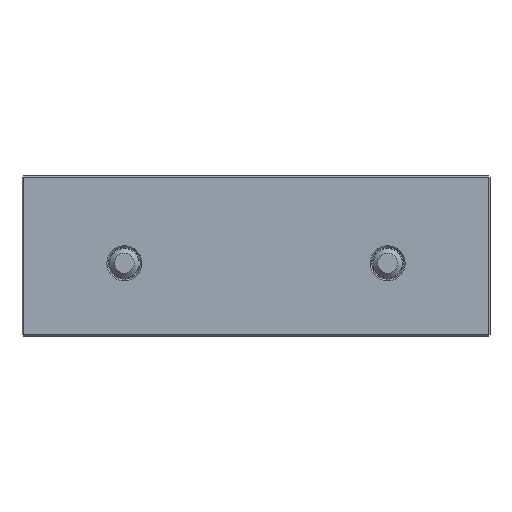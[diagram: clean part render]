
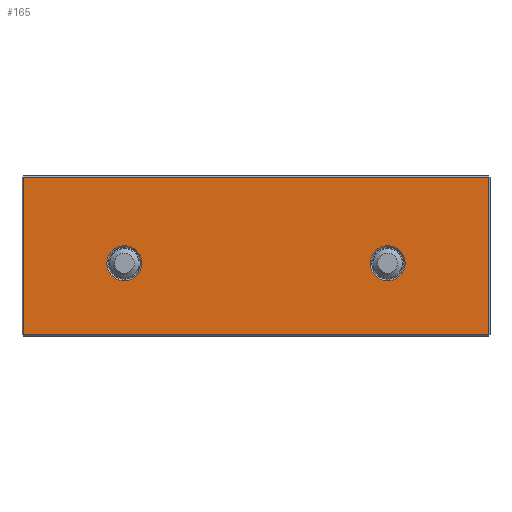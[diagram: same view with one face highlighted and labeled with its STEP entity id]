
A CAD part, front view. The second image highlights one B-rep face of the part: STEP entity #165.
In plain terms, the highlighted planar face has unit normal (0, -1, 0).
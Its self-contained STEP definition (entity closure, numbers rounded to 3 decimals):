
#165=ADVANCED_FACE('',(#815,#817,#819),#821,.T.);
#815=FACE_BOUND('',#816,.T.);
#816=EDGE_LOOP('',(#1295,#1296,#1297,#1298));
#817=FACE_BOUND('',#818,.T.);
#818=EDGE_LOOP('',(#1299));
#819=FACE_BOUND('',#820,.T.);
#820=EDGE_LOOP('',(#1300));
#821=PLANE('',#822);
#822=AXIS2_PLACEMENT_3D('',#823,#824,#825);
#823=CARTESIAN_POINT('',(-80.,-7.,30.));
#824=DIRECTION('',(0.,-1.,0.));
#825=DIRECTION('',(0.,0.,-1.));
#1295=ORIENTED_EDGE('',*,*,#1548,.F.);
#1296=ORIENTED_EDGE('',*,*,#1549,.F.);
#1297=ORIENTED_EDGE('',*,*,#1550,.T.);
#1298=ORIENTED_EDGE('',*,*,#1551,.T.);
#1299=ORIENTED_EDGE('',*,*,#1552,.T.);
#1300=ORIENTED_EDGE('',*,*,#1535,.T.);
#1535=EDGE_CURVE('',#1678,#1678,#1679,.T.);
#1548=EDGE_CURVE('',#1704,#1705,#1706,.T.);
#1549=EDGE_CURVE('',#1707,#1704,#1708,.T.);
#1550=EDGE_CURVE('',#1707,#1709,#1710,.T.);
#1551=EDGE_CURVE('',#1709,#1705,#1711,.T.);
#1552=EDGE_CURVE('',#1712,#1712,#1713,.T.);
#1678=VERTEX_POINT('',#1935);
#1679=CIRCLE('',#1936,6.);
#1704=VERTEX_POINT('',#1990);
#1705=VERTEX_POINT('',#1991);
#1706=LINE('',#1992,#1993);
#1707=VERTEX_POINT('',#1995);
#1708=LINE('',#1996,#1997);
#1709=VERTEX_POINT('',#1999);
#1710=LINE('',#2000,#2001);
#1711=LINE('',#2003,#2004);
#1712=VERTEX_POINT('',#2006);
#1713=CIRCLE('',#2007,6.);
#1935=CARTESIAN_POINT('',(51.,-7.,0.));
#1936=AXIS2_PLACEMENT_3D('',#1937,#1938,#1939);
#1937=CARTESIAN_POINT('',(45.,-7.,0.));
#1938=DIRECTION('',(0.,1.,0.));
#1939=DIRECTION('',(1.,0.,0.));
#1990=CARTESIAN_POINT('',(79.5,-7.,29.5));
#1991=CARTESIAN_POINT('',(79.5,-7.,-24.5));
#1992=CARTESIAN_POINT('',(79.5,-7.,29.5));
#1993=VECTOR('',#1994,1.);
#1994=DIRECTION('',(0.,0.,-1.));
#1995=CARTESIAN_POINT('',(-79.5,-7.,29.5));
#1996=CARTESIAN_POINT('',(-79.5,-7.,29.5));
#1997=VECTOR('',#1998,1.);
#1998=DIRECTION('',(1.,0.,0.));
#1999=CARTESIAN_POINT('',(-79.5,-7.,-24.5));
#2000=CARTESIAN_POINT('',(-79.5,-7.,29.5));
#2001=VECTOR('',#2002,1.);
#2002=DIRECTION('',(0.,0.,-1.));
#2003=CARTESIAN_POINT('',(-79.5,-7.,-24.5));
#2004=VECTOR('',#2005,1.);
#2005=DIRECTION('',(1.,0.,0.));
#2006=CARTESIAN_POINT('',(-39.,-7.,0.));
#2007=AXIS2_PLACEMENT_3D('',#2008,#2009,#2010);
#2008=CARTESIAN_POINT('',(-45.,-7.,0.));
#2009=DIRECTION('',(0.,1.,0.));
#2010=DIRECTION('',(1.,0.,0.));
